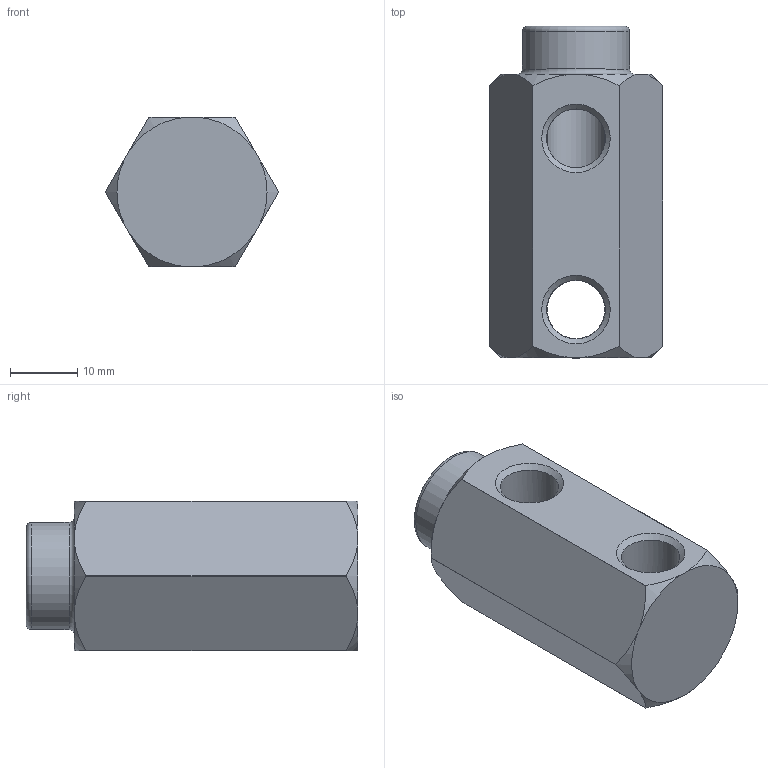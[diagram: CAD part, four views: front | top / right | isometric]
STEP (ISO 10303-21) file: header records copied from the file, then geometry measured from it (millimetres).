
FILE_DESCRIPTION(/* description */ (''),/* implementation_level */ '2;1');
FILE_NAME(/* name */ 'C:/Users/drich/Desktop/181H v2.step',/* time_stamp */ '2020-01-10T20:21:13-06:00',/* author */ (''),/* organization */ (''),/* preprocessor_version */ 'ST-DEVELOPER v18',/* originating_system */ 'Autodesk Translation Framework v8.12.0.6',/* authorisation */ '');
FILE_SCHEMA (('AUTOMOTIVE_DESIGN { 1 0 10303 214 3 1 1 }'));
Length unit declared in the file: inch
Products named in the file (2): 181H; 181H_1
Assembly tree (1 placements, depth 2):
  181H
    181H_1
Bounding box: 25.65 x 49.2 x 22.23 mm (x, y, z)
Volume: 15920 mm3; surface area: 5695.7 mm2
Topology: 1 solids, 1 shells, 44 faces, 126 edges, 84 vertices
Faces by surface type: cone 21, cylinder 12, plane 9, torus 2
Full cylindrical faces by diameter (mm): 4.064 x1, 8.707 x4, 15.875 x1
Entity records: 1564 total; most frequent: CARTESIAN_POINT 369, ORIENTED_EDGE 252, DIRECTION 245, EDGE_CURVE 126, AXIS2_PLACEMENT_3D 105, VERTEX_POINT 84, CIRCLE 56, EDGE_LOOP 50
